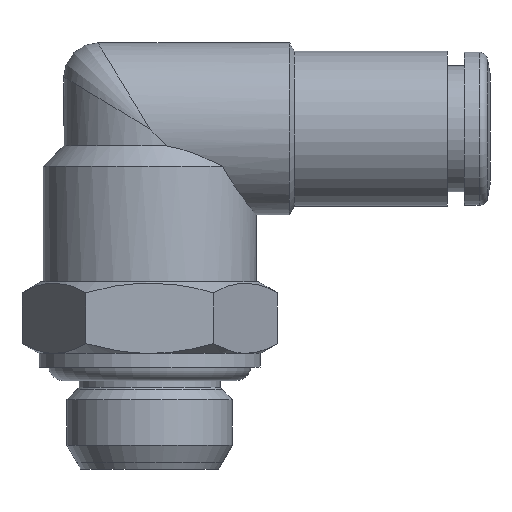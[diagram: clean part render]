
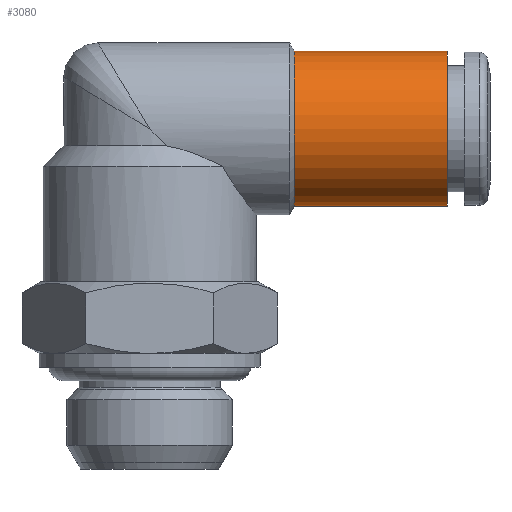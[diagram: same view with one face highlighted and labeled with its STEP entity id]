
A CAD part, front view. The second image highlights one B-rep face of the part: STEP entity #3080.
In plain terms, the highlighted cylindrical face has radius 4.55 mm (diameter 9.1 mm), a full revolution.
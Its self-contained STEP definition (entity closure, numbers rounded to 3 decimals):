
#3080=ADVANCED_FACE('', (#3090,#3100), #3110, .T.);
#8540=AXIS2_PLACEMENT_3D('Ax2Pl3d', #8550, #8560, #8570);
#9500=AXIS2_PLACEMENT_3D('Ax2Pl3d', #9510, #9520, #9530);
#9540=AXIS2_PLACEMENT_3D('Ax2Pl3d', #9550, #9560, #9570);
#8550=CARTESIAN_POINT('HicPkt', (25.248,9.497,
12.079));
#23630=CARTESIAN_POINT('', (25.248,9.497,16.629));
#9510=CARTESIAN_POINT('HicPkt', (16.248,9.497,
12.079));
#23770=CARTESIAN_POINT('', (16.248,9.497,16.629));
#9550=CARTESIAN_POINT('HicPkt', (16.248,9.497,
12.079));
#24380=CIRCLE('Circle', #8540, 4.55);
#24480=CIRCLE('Circle', #9500, 4.55);
#3110=CYLINDRICAL_SURFACE('Zyl', #9540, 4.55);
#8560=DIRECTION('Axis', (-1.,0.,0.))
;
#8570=DIRECTION('RefDirection', (0.,
0.,-1.));
#9520=DIRECTION('Axis', (-1.,0.,0.))
;
#9530=DIRECTION('RefDirection', (0.,
0.,-1.));
#9560=DIRECTION('Axis', (1.,0.,0.));
#9570=DIRECTION('RefDirection', (0.,0.,-1.));
#29110=EDGE_CURVE('', #29120, #29120, #24380, .T.);
#29490=EDGE_CURVE('', #29500, #29500, #24480, .T.);
#32880=EDGE_LOOP('Edge_loop', (#32890));
#32900=EDGE_LOOP('Edge_loop', (#32910));
#3100=FACE_BOUND('', #32900, .T.);
#3090=FACE_OUTER_BOUND('Face_outer_bound', #32880, .T.);
#32890=ORIENTED_EDGE('', *, *, #29110, .T.);
#32910=ORIENTED_EDGE('', *, *, #29490, .F.);
#29120=VERTEX_POINT('', #23630);
#29500=VERTEX_POINT('', #23770);
